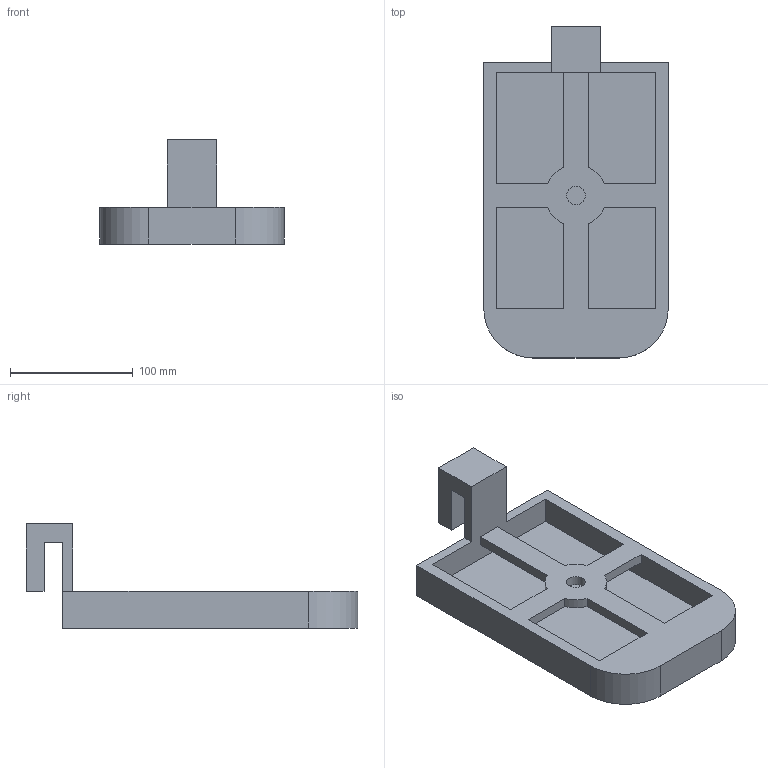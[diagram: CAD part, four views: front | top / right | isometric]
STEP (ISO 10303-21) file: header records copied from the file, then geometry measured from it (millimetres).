
FILE_DESCRIPTION(('HOOPS Exchange Step'),'2;1');
FILE_NAME('/private/var/mobile/Containers/Data/Application/DD97EE40-877A-4DB0-A56E-7A8C64E57733/tmp/export/temp_export','2025-11-06T20:57:39+08:00',('mobile'),('Shapr3D Limited'),'HOOPS Exchange 2025.5','Shapr3D','Authorized');
FILE_SCHEMA( ('AP242_MANAGED_MODEL_BASED_3D_ENGINEERING_MIM_LF {1 0 10303 442 1 1 4}') );
Length unit declared in the file: millimetre
Products named in the file (1): 实体  05
Bounding box: 150 x 269.8 x 84.8 mm (x, y, z)
Volume: 546766.4 mm3; surface area: 139037.1 mm2
Topology: 1 solids, 1 shells, 38 faces, 117 edges, 78 vertices
Faces by surface type: plane 31, cylinder 7
Full cylindrical faces by diameter (mm): 15 x1
Entity records: 1347 total; most frequent: CARTESIAN_POINT 235, ORIENTED_EDGE 234, DIRECTION 211, EDGE_CURVE 117, VECTOR 103, LINE 103, VERTEX_POINT 78, AXIS2_PLACEMENT_3D 54
